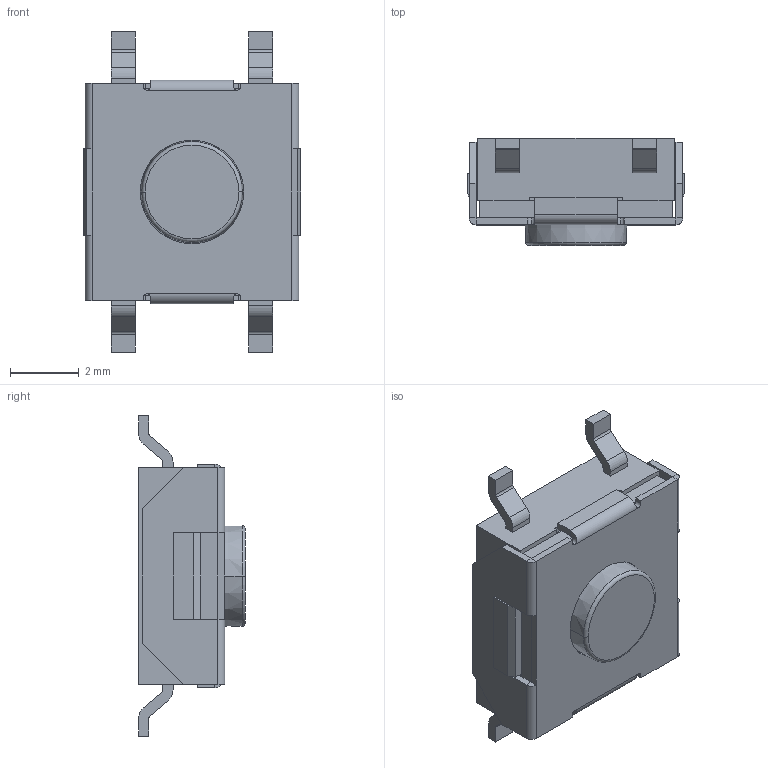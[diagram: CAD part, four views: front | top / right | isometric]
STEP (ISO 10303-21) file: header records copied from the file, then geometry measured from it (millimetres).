
FILE_DESCRIPTION((''),'2;1');
FILE_NAME('JQA6262P-C0254-01G-1-104_ASM','2026-05-23T12:03:43',('Admin'),(''),'CREO PARAMETRIC BY PTC INC, 2019224','CREO PARAMETRIC BY PTC INC, 2019224','');
FILE_SCHEMA(('AUTOMOTIVE_DESIGN { 1 0 10303 214 1 1 1 1 }'));
Length unit declared in the file: millimetre
Products named in the file (3): JQA6262P-C0254-01G-1-104_10; JQA6262P-C0254-01G-1-104_04; JQA6262P-C0254-01G-1-104_ASM
Assembly tree (2 placements, depth 2):
  JQA6262P-C0254-01G-1-104_ASM
    JQA6262P-C0254-01G-1-104_10
    JQA6262P-C0254-01G-1-104_04
Bounding box: 6.3 x 3.1 x 9.3 mm (x, y, z)
Volume: 99.7 mm3; surface area: 276.7 mm2
Topology: 2 solids, 2 shells, 163 faces, 420 edges, 264 vertices
Faces by surface type: plane 123, cylinder 32, bspline 4, cone 2, torus 2
Entity records: 6829 total; most frequent: CARTESIAN_POINT 1157, ORIENTED_EDGE 836, DIRECTION 822, EDGE_CURVE 418, VECTOR 342, LINE 342, PRESENTATION_STYLE_ASSIGNMENT 312, VERTEX_POINT 260
